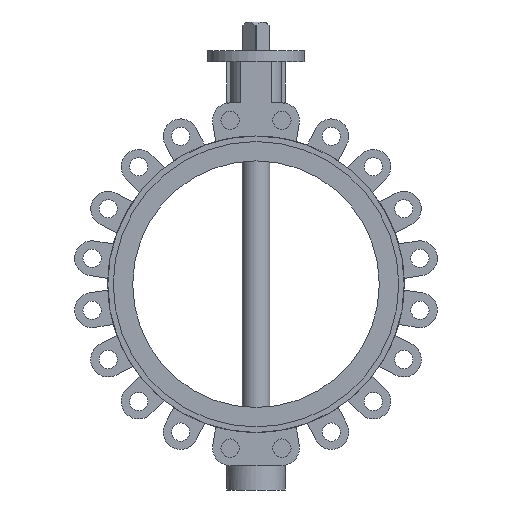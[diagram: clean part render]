
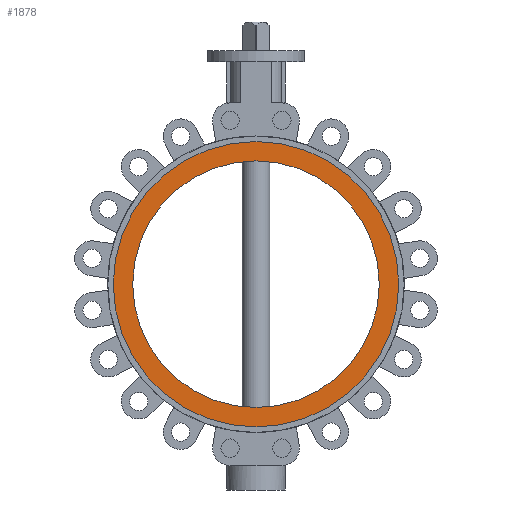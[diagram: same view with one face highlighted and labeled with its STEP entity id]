
A CAD part, front view. The second image highlights one B-rep face of the part: STEP entity #1878.
In plain terms, the highlighted planar face has unit normal (0, -1, 0) as drawn and (1, 0, 0) by its records, which use the part's own axes.
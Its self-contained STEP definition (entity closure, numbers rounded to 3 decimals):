
#140 = DIRECTION ( 'NONE',  ( 0., 1., 0. ) ) ;
#167 = PLANE ( 'NONE',  #2356 ) ;
#293 = EDGE_LOOP ( 'NONE', ( #7666, #3914 ) ) ;
#680 = CARTESIAN_POINT ( 'NONE',  ( 3381.772, 1355.089, 0. ) ) ;
#888 = CIRCLE ( 'NONE', #2895, 222.906 ) ;
#1206 = CIRCLE ( 'NONE', #7190, 258. ) ;
#1284 = DIRECTION ( 'NONE',  ( -1., 0., 0. ) ) ;
#1380 = DIRECTION ( 'NONE',  ( 1., 0., 0. ) ) ;
#1392 = AXIS2_PLACEMENT_3D ( 'NONE', #3113, #1284, #140 ) ;
#1444 = DIRECTION ( 'NONE',  ( 0., 1., 0. ) ) ;
#1465 = DIRECTION ( 'NONE',  ( -1., 0., 0. ) ) ;
#1515 = VERTEX_POINT ( 'NONE', #1547 ) ;
#1542 = CARTESIAN_POINT ( 'NONE',  ( 3381.772, 1577.995, 0. ) ) ;
#1547 = CARTESIAN_POINT ( 'NONE',  ( 3381.772, 1132.183, 0. ) ) ;
#1878 = ADVANCED_FACE ( 'NONE', ( #5603, #4940 ), #167, .T. ) ;
#1914 = DIRECTION ( 'NONE',  ( -1., 0., 0. ) ) ;
#2356 = AXIS2_PLACEMENT_3D ( 'NONE', #3849, #1380, #6231 ) ;
#2458 = EDGE_LOOP ( 'NONE', ( #2709, #7545 ) ) ;
#2544 = DIRECTION ( 'NONE',  ( 0., 1., 0. ) ) ;
#2709 = ORIENTED_EDGE ( 'NONE', *, *, #6843, .F. ) ;
#2895 = AXIS2_PLACEMENT_3D ( 'NONE', #6338, #6793, #1444 ) ;
#3113 = CARTESIAN_POINT ( 'NONE',  ( 3381.772, 1355.089, 0. ) ) ;
#3301 = EDGE_CURVE ( 'NONE', #6044, #3545, #1206, .T. ) ;
#3545 = VERTEX_POINT ( 'NONE', #7114 ) ;
#3765 = CIRCLE ( 'NONE', #1392, 222.906 ) ;
#3849 = CARTESIAN_POINT ( 'NONE',  ( 3381.772, 0., 0. ) ) ;
#3914 = ORIENTED_EDGE ( 'NONE', *, *, #7688, .T. ) ;
#4329 = VERTEX_POINT ( 'NONE', #1542 ) ;
#4659 = CIRCLE ( 'NONE', #4900, 258. ) ;
#4900 = AXIS2_PLACEMENT_3D ( 'NONE', #6815, #1465, #5106 ) ;
#4940 = FACE_OUTER_BOUND ( 'NONE', #2458, .T. ) ;
#5106 = DIRECTION ( 'NONE',  ( 0., 1., 0. ) ) ;
#5603 = FACE_BOUND ( 'NONE', #293, .T. ) ;
#6044 = VERTEX_POINT ( 'NONE', #6840 ) ;
#6231 = DIRECTION ( 'NONE',  ( 0., 1., 0. ) ) ;
#6338 = CARTESIAN_POINT ( 'NONE',  ( 3381.772, 1355.089, 0. ) ) ;
#6700 = EDGE_CURVE ( 'NONE', #1515, #4329, #3765, .T. ) ;
#6793 = DIRECTION ( 'NONE',  ( -1., 0., 0. ) ) ;
#6815 = CARTESIAN_POINT ( 'NONE',  ( 3381.772, 1355.089, 0. ) ) ;
#6840 = CARTESIAN_POINT ( 'NONE',  ( 3381.772, 1613.089, 0. ) ) ;
#6843 = EDGE_CURVE ( 'NONE', #3545, #6044, #4659, .T. ) ;
#7114 = CARTESIAN_POINT ( 'NONE',  ( 3381.772, 1097.089, 0. ) ) ;
#7190 = AXIS2_PLACEMENT_3D ( 'NONE', #680, #1914, #2544 ) ;
#7545 = ORIENTED_EDGE ( 'NONE', *, *, #3301, .F. ) ;
#7666 = ORIENTED_EDGE ( 'NONE', *, *, #6700, .T. ) ;
#7688 = EDGE_CURVE ( 'NONE', #4329, #1515, #888, .T. ) ;
